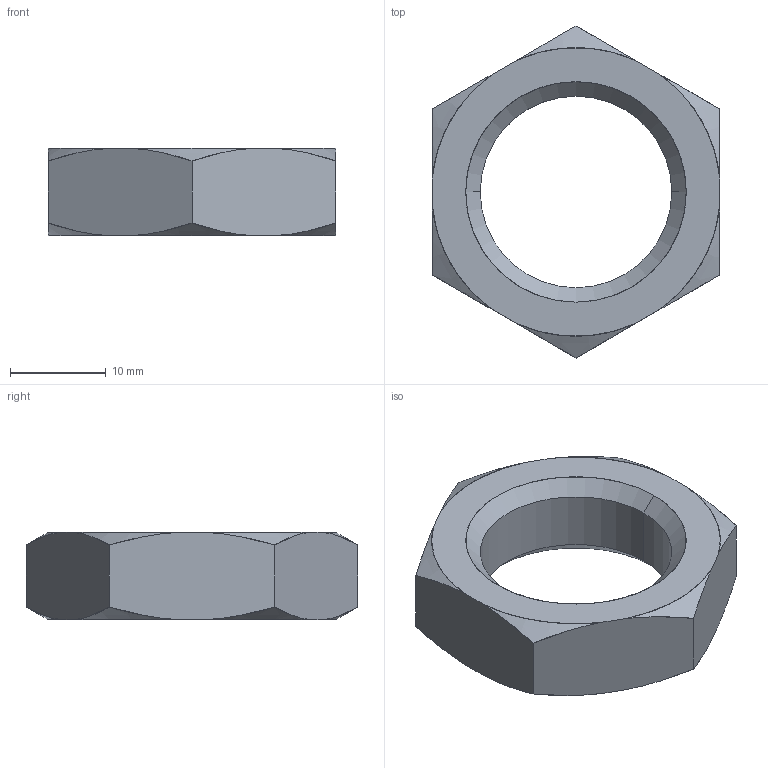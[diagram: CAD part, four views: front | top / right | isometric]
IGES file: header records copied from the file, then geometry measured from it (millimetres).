
Start section: SolidWorks IGES file using analytic representation for surfaces
Global section: file name: C:\Users\liam_\OneDrive\Desktop\Work\Mat Davis Pending 20181125\automotion\P SERIES\P0307.ZP_v2\P0307.ZP_v2_20181215_IGES\P0307.200-150-ZP.igs; native system: SolidWorks 2017; preprocessor: SolidWorks 2017; author: liam_; date: 181215.155041; units: millimetre
Bounding box: 30 x 34.64 x 9.1 mm (x, y, z)
Surface area: 2276.1 mm2 (no closed solid volume)
Topology: 0 solids, 0 shells, 26 faces, 376 edges, 376 vertices
Faces by surface type: revolution 18, bspline 8
